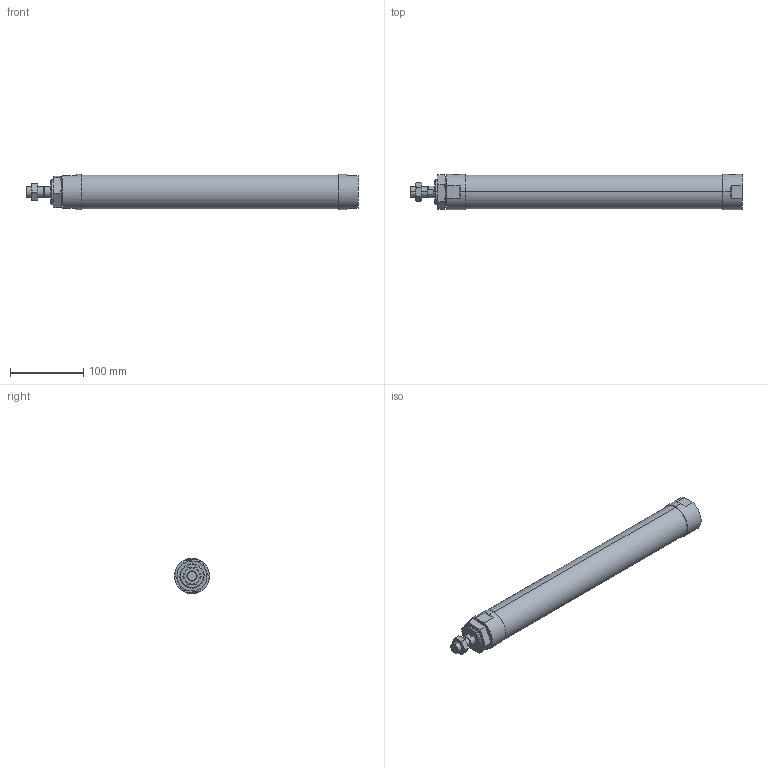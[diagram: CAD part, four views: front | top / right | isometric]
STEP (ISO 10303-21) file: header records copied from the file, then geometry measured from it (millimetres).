
FILE_DESCRIPTION (( 'STEP AP203' ), '1' );
FILE_NAME ('JGND2-40-300-N.STEP', '2016-08-04T03:16:47', ( '' ), ( '' ), 'SwSTEP 2.0', 'SolidWorks 2014', '' );
FILE_SCHEMA (( 'CONFIG_CONTROL_DESIGN' ));
Length unit declared in the file: millimetre
Products named in the file (4): J#2-40-300(P); JGND2-40-300-N
Assembly tree (3 placements, depth 2):
  JGND2-40-300-N
    J#2-40-300(P)
    (unnamed)
    (unnamed)
Bounding box: 453 x 48 x 48 mm (x, y, z)
Volume: 702755.9 mm3; surface area: 72193.4 mm2
Topology: 3 solids, 3 shells, 89 faces, 200 edges, 119 vertices
Faces by surface type: plane 32, torus 24, cylinder 20, cone 13
Entity records: 3305 total; most frequent: CARTESIAN_POINT 1001, DIRECTION 395, ORIENTED_EDGE 392, EDGE_CURVE 196, AXIS2_PLACEMENT_3D 167, VERTEX_POINT 119, EDGE_LOOP 99, FACE_OUTER_BOUND 89
